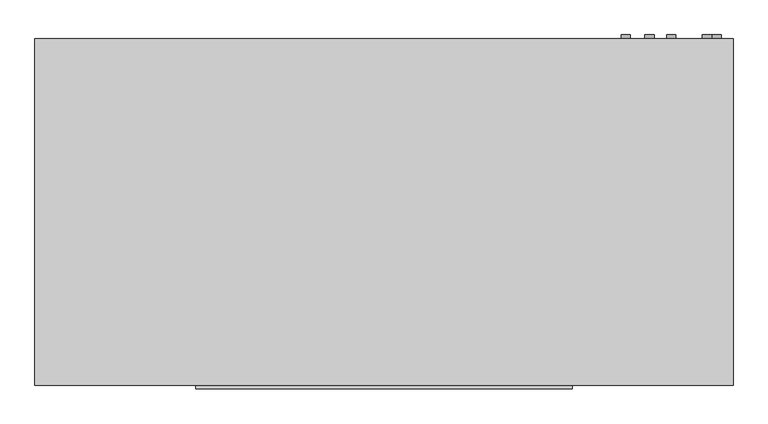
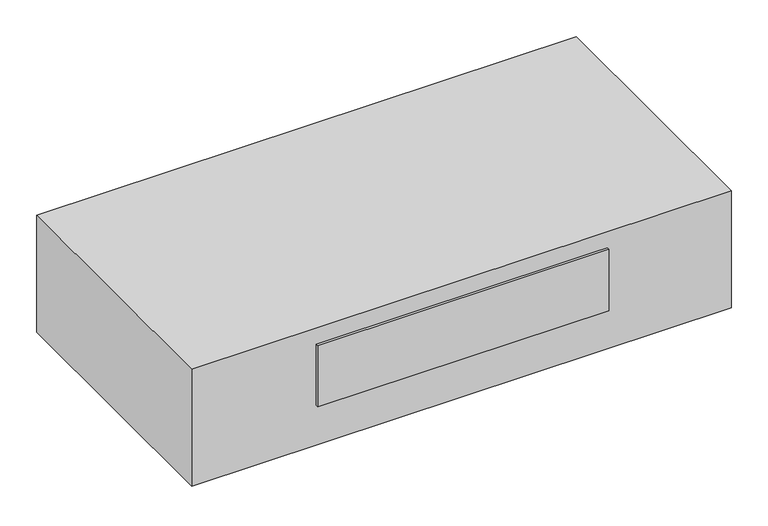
"""IFC4 building model written with IfcOpenShell, lengths in millimetres: proxy geometry, Exposed_Horizontal_Fan_Coil_Unit_-_42CGB_-_CARRIER_-_4-Pipe_FS-BR_RH_2022 : Size 04 - 277v/60Hz/1Ph - 4/1 Coil."""

from ifc_helpers import new_model, si_unit, point, frame, frame_2d, origin, place, context, project, spatial, polyline, circle_curve, trimmed, segment, composite_curve, outline, extrude, source, transform, mapped, element, save


def mechanical_equipment_1a6eef26(model_context):
    return source(origin(), model_context, "Body", "SweptSolid", [
        extrude(outline(composite_curve([segment(trimmed(circle_curve(frame_2d((-85.725, 733.425)), 7.9375), [point((-85.725, 741.3625))], [point((-85.725, 725.4875))], False, "CARTESIAN"), True, "CONTINUOUS"), segment(trimmed(circle_curve(frame_2d((-85.725, 733.425)), 7.9375), [point((-85.725, 725.4875))], [point((-85.725, 741.3625))], False, "CARTESIAN"), True, "CONTINUOUS")], self_intersect=False)), frame((0.0, 65.0875, 0.0), z_axis=(0.0, 1.0, 0.0), x_axis=(0.0, 0.0, 1.0)), (0.0, 0.0, 1.0), 6.35),
        extrude(outline(composite_curve([segment(trimmed(circle_curve(frame_2d((-44.45, 654.05)), 7.9375), [point((-44.45, 661.9875))], [point((-44.45, 646.1125))], False, "CARTESIAN"), True, "CONTINUOUS"), segment(trimmed(circle_curve(frame_2d((-44.45, 654.05)), 7.9375), [point((-44.45, 646.1125))], [point((-44.45, 661.9875))], False, "CARTESIAN"), True, "CONTINUOUS")], self_intersect=False)), frame((0.0, 65.0875, 0.0), z_axis=(0.0, 1.0, 0.0), x_axis=(0.0, 0.0, 1.0)), (0.0, 0.0, 1.0), 6.35),
        extrude(outline(composite_curve([segment(trimmed(circle_curve(frame_2d((-95.25, 615.95)), 7.9375), [point((-95.25, 623.8875))], [point((-95.25, 608.0125))], False, "CARTESIAN"), True, "CONTINUOUS"), segment(trimmed(circle_curve(frame_2d((-95.25, 615.95)), 7.9375), [point((-95.25, 608.0125))], [point((-95.25, 623.8875))], False, "CARTESIAN"), True, "CONTINUOUS")], self_intersect=False)), frame((0.0, 65.0875, 0.0), z_axis=(0.0, 1.0, 0.0), x_axis=(0.0, 0.0, 1.0)), (0.0, 0.0, 1.0), 6.35),
        extrude(outline(composite_curve([segment(trimmed(circle_curve(frame_2d((-60.325, 574.675)), 7.9375), [point((-60.325, 582.6125))], [point((-60.325, 566.7375))], False, "CARTESIAN"), True, "CONTINUOUS"), segment(trimmed(circle_curve(frame_2d((-60.325, 574.675)), 7.9375), [point((-60.325, 566.7375))], [point((-60.325, 582.6125))], False, "CARTESIAN"), True, "CONTINUOUS")], self_intersect=False)), frame((0.0, 65.0875, 0.0), z_axis=(0.0, 1.0, 0.0), x_axis=(0.0, 0.0, 1.0)), (0.0, 0.0, 1.0), 6.35),
        extrude(outline(composite_curve([segment(trimmed(circle_curve(frame_2d((-260.35, 717.55)), 9.525), [point((-260.35, 727.075))], [point((-260.35, 708.025))], False, "CARTESIAN"), True, "CONTINUOUS"), segment(trimmed(circle_curve(frame_2d((-260.35, 717.55)), 9.525), [point((-260.35, 708.025))], [point((-260.35, 727.075))], False, "CARTESIAN"), True, "CONTINUOUS")], self_intersect=False)), frame((0.0, 65.0875, 0.0), z_axis=(0.0, 1.0, 0.0), x_axis=(0.0, 0.0, 1.0)), (0.0, 0.0, 1.0), 6.35),
        extrude(outline(polyline([(-457.2, 65.0875), (762.0, 65.0875), (762.0, -541.3375), (-457.2, -541.3375), (-457.2, 65.0875)])), frame((0.0, 0.0, -279.4), z_axis=(0.0, 0.0, 1.0), x_axis=(1.0, 0.0, 0.0)), (0.0, 0.0, 1.0), 279.4),
        extrude(outline(polyline([(481.0125, -547.6875), (-176.2125, -547.6875), (-176.2125, -541.3375), (481.0125, -541.3375), (481.0125, -547.6875)])), frame((0.0, 0.0, -184.15), z_axis=(0.0, 0.0, 1.0), x_axis=(1.0, 0.0, 0.0)), (0.0, 0.0, 1.0), 146.05),
        extrude(outline(polyline([(565.15, -11.1125), (565.15, -265.1125), (-260.35, -265.1125), (-260.35, -11.1125), (565.15, -11.1125)])), frame((0.0, 0.0, -285.75), z_axis=(0.0, 0.0, 1.0), x_axis=(1.0, 0.0, 0.0)), (0.0, 0.0, 1.0), 6.35),
    ])


if __name__ == "__main__":
    model = new_model("IFC4")
    model_context = context("Model", 3, world=origin())
    ifc_project = project(units=[si_unit("LENGTHUNIT", "METRE", prefix="MILLI")], contexts=[model_context])
    site = spatial("IfcSite", under=ifc_project)
    building = spatial("IfcBuilding", under=site)
    placement = place(None, origin())
    mechanical_equipment_shape = mechanical_equipment_1a6eef26(model_context)
    element("IfcBuildingElementProxy", 1, Name="Exposed_Horizontal_Fan_Coil_Unit_-_42CGB_-_CARRIER_-_4-Pipe_FS-BR_RH_2022 : Size 04 - 277v/60Hz/1Ph - 4/1 Coil", ObjectType="Exposed_Horizontal_Fan_Coil_Unit_-_42CGB_-_CARRIER_-_4-Pipe_FS-BR_RH_2022 : Size 04 - 277v/60Hz/1Ph - 4/1 Coil", at=placement, inside=building, context=model_context, shape_type="MappedRepresentation", body=[
        mapped(mechanical_equipment_shape, transform((0.0, 0.0, 0.0), x_axis=(1.0, 0.0, 0.0), y_axis=(0.0, 1.0, 0.0), z_axis=(0.0, 0.0, 1.0))),
    ])
    save(model, "model.ifc")
